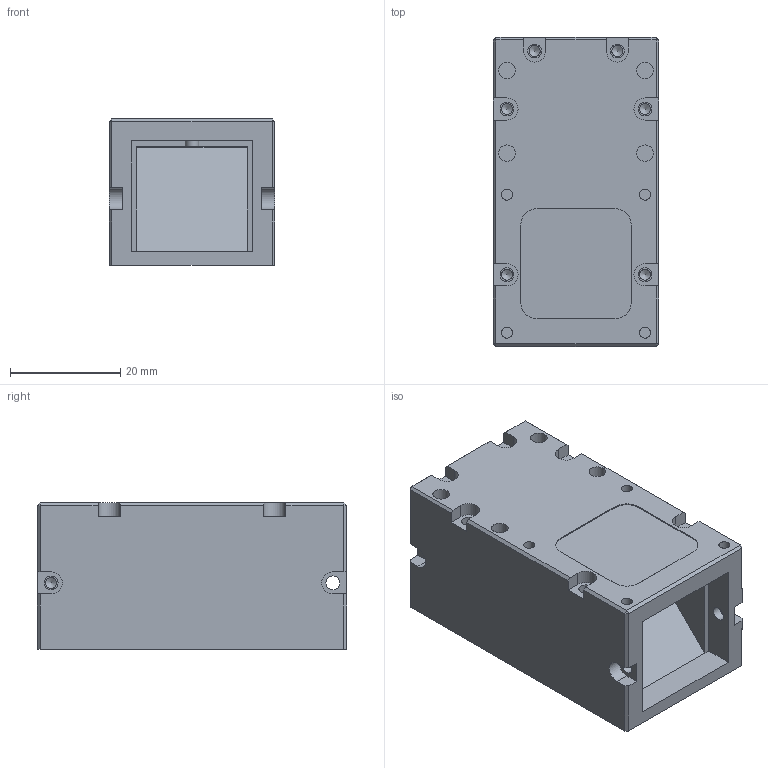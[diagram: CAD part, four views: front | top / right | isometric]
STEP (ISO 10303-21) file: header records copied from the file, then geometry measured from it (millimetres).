
FILE_DESCRIPTION((''),'2;1');
FILE_NAME('D:\上海创波-20181114\2-三维图纸\1-常用光源\WLFV系列\WLFVB-20-.stp','2020-02-05T14:32:03',('Administrator'),(''),'Autodesk Inventor 2010','Autodesk Inventor 2010','');
FILE_SCHEMA(('AUTOMOTIVE_DESIGN { 1 0 10303 214 1 1 1 1 }'));
Length unit declared in the file: millimetre
Products named in the file (1): 零件4
Bounding box: 30 x 56 x 26.5 mm (x, y, z)
Volume: 21555.6 mm3; surface area: 15320.9 mm2
Topology: 3 solids, 3 shells, 277 faces, 706 edges, 459 vertices
Faces by surface type: plane 185, bspline 60, cylinder 25, cone 7
Full cylindrical faces by diameter (mm): 2 x7, 2.5 x1
Entity records: 8541 total; most frequent: CARTESIAN_POINT 2182, ORIENTED_EDGE 1194, DIRECTION 1161, EDGE_CURVE 597, VECTOR 469, LINE 469, VERTEX_POINT 413, EDGE_LOOP 372
